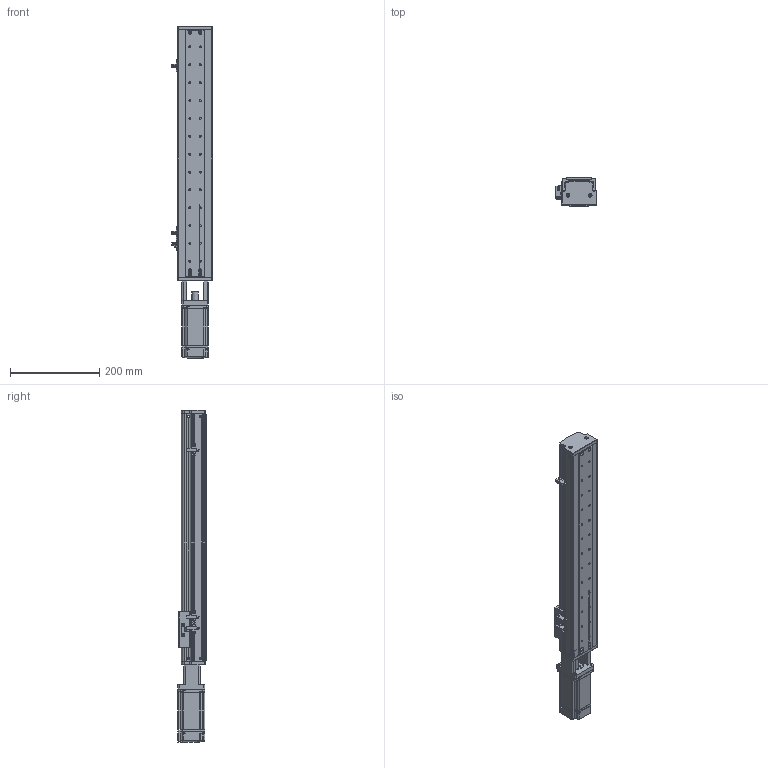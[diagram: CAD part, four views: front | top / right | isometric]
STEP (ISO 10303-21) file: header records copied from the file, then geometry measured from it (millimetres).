
FILE_DESCRIPTION (( 'STEP AP214' ), '1' );
FILE_NAME ('KSD75S-S400-MT-CM.STEP', '2019-10-18T07:31:51', ( '微软用户' ), ( '微软中国' ), 'SwSTEP 2.0', 'SolidWorks 2014', '' );
FILE_SCHEMA (( 'AUTOMOTIVE_DESIGN' ));
Length unit declared in the file: millimetre
Products named in the file (12): 100遵鎮湛假蚾啣1 ; ヶ傷啣; 75裔啣-400俴最; 75遵耀郪耜啣-400俴最; 75遵賑雄釱; MGW15H賑寢400俴最 ; 400俴最; KSD75S-S400-MT-CM; MHMD042G1CA_2_03; 覜茼え100遵圉猾敕; U倰嫖萇EEㄜSX672; 綴傷啣 
Assembly tree (14 placements, depth 3):
  KSD75S-S400-MT-CM
    MGW15H賑寢400俴最 
      400俴最
    75遵賑雄釱
    75遵耀郪耜啣-400俴最  x2
    75裔啣-400俴最
    ヶ傷啣
    100遵鎮湛假蚾啣1 
    綴傷啣 
    U倰嫖萇EEㄜSX672  x3
    覜茼え100遵圉猾敕
    MHMD042G1CA_2_03
Bounding box: 91.7 x 63 x 743.5 mm (x, y, z)
Volume: 767200.2 mm3; surface area: 479665.3 mm2
Topology: 12 solids, 13 shells, 1406 faces, 3981 edges, 2595 vertices
Faces by surface type: cylinder 660, plane 599, cone 129, bspline 18
Entity records: 45204 total; most frequent: CARTESIAN_POINT 8597, DIRECTION 6673, ORIENTED_EDGE 6242, EDGE_CURVE 3192, AXIS2_PLACEMENT_3D 2450, VERTEX_POINT 2113, LINE 1773, VECTOR 1773
